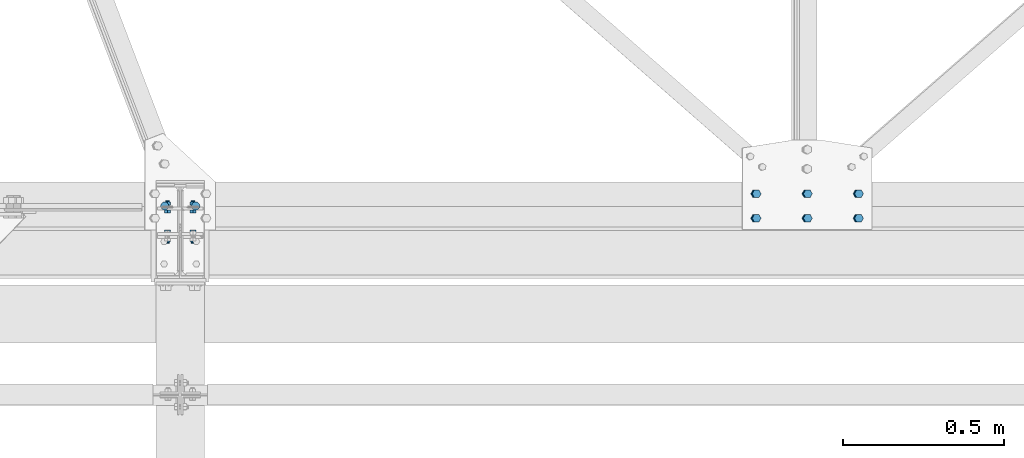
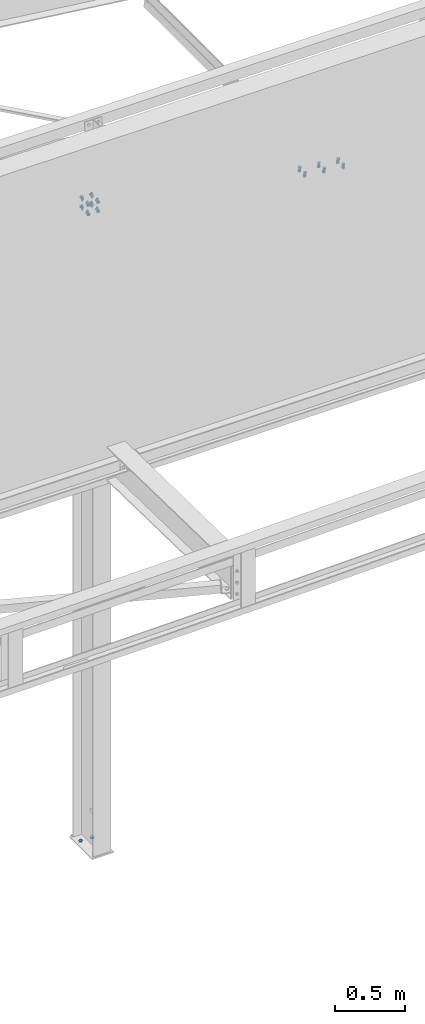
# One storey, part 25 of 3134: 4 mechanical fasteners, 3 elements without a shape of their own.
"""IFC2X3 building model written with IfcOpenShell, lengths in millimetres."""

from ifc_helpers import new_model, si_unit, frame, origin_with_axes, place, context, subcontext, project, spatial, faceted_brep, source, transform, mapped, material, type_object, element, aggregate, save


model = new_model("IFC2X3")

# Units and contexts
model_context = context("Model", 3, precision=1e-05, world=origin_with_axes())
body_context = subcontext(model_context, "Body", "Model", "MODEL_VIEW")
ifc_project = project(units=[si_unit("LENGTHUNIT", "METRE", prefix="MILLI"), si_unit("AREAUNIT", "SQUARE_METRE"), si_unit("VOLUMEUNIT", "CUBIC_METRE"), si_unit("MASSUNIT", "GRAM", prefix="KILO"), si_unit("TIMEUNIT", "SECOND"), si_unit("PLANEANGLEUNIT", "RADIAN"), si_unit("SOLIDANGLEUNIT", "STERADIAN"), si_unit("THERMODYNAMICTEMPERATUREUNIT", "DEGREE_CELSIUS"), si_unit("LUMINOUSINTENSITYUNIT", "LUMEN")], contexts=[model_context])

# Site, building, storey
site_placement = place(None, origin_with_axes())
site = spatial("IfcSite", under=ifc_project, at=site_placement, CompositionType="ELEMENT")
building_placement = place(site_placement, origin_with_axes())
building = spatial("IfcBuilding", under=site, at=building_placement, Name="Undefined", CompositionType="ELEMENT")
storey_placement = place(building_placement, origin_with_axes())
storey = spatial("IfcBuildingStorey", under=building, at=storey_placement, Name="Undefined", CompositionType="ELEMENT", Elevation=0.0)

# Assembly, mechanical fasteners
assembly_1_placement = place(storey_placement, origin_with_axes())
assembly_1 = element("IfcElementAssembly", 1, at=assembly_1_placement, inside=storey, Name="300", AssemblyPlace="NOTDEFINED", PredefinedType="RIGID_FRAME")
ifc_material = material(Name="8.8")
mechanical_fastener_type = type_object("IfcMechanicalFastenerType", Name="Bolt assembly")
shared_shape_1 = source(origin_with_axes(), body_context, "Body", "Brep", [
    faceted_brep([(13.856406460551, -19.199990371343, 0.0), (6.92820323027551, -19.199990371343, 12.0), (-6.92820323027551, -19.199990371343, 12.0), (-13.856406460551, -19.199990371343, 1.69692038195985e-15), (-6.92820323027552, -19.199990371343, -12.0), (6.9282032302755, -19.199990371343, -12.0), (6.9282032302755, -9.19999037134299, -12.0), (-6.92820323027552, -9.19999037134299, -12.0), (-13.856406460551, -9.19999037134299, 1.69692038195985e-15), (-6.92820323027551, -9.19999037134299, 12.0), (6.92820323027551, -9.19999037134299, 12.0), (13.856406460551, -9.19999037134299, 0.0), (8.0, -9.19999037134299, 0.0), (6.92820323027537, -9.19999037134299, 4.00000000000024), (3.99999999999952, -9.19999037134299, 6.92820323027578), (-8.29068785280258e-13, -9.19999037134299, 8.0), (-4.00000000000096, -9.19999037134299, 6.92820323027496), (-6.9282032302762, -9.19999037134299, 3.99999999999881), (-8.0, -9.19999037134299, -1.65813757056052e-12), (-6.92820323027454, -9.19999037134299, -4.00000000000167), (-3.99999999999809, -9.19999037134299, -6.92820323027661), (2.47832457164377e-12, -9.19999037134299, -8.0), (4.00000000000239, -9.19999037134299, -6.92820323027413), (6.92820323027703, -9.19999037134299, -3.99999999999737), (6.92820323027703, 25.800009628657, -3.99999999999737), (4.00000000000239, 25.800009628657, -6.92820323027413), (2.47832457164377e-12, 25.800009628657, -8.0), (-3.99999999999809, 25.800009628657, -6.92820323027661), (-6.92820323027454, 25.800009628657, -4.00000000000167), (-8.0, 25.800009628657, -1.65813757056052e-12), (-6.9282032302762, 25.800009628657, 3.99999999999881), (-4.00000000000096, 25.800009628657, 6.92820323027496), (-8.29068785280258e-13, 25.800009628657, 8.0), (3.99999999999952, 25.800009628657, 6.92820323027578), (6.92820323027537, 25.800009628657, 4.00000000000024), (8.0, 25.800009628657, 0.0), (13.856406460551, 8.00000637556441, 0.0), (6.92820323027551, 8.00000637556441, 12.0), (-6.92820323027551, 8.00000637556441, 12.0), (-13.856406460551, 8.00000637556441, 1.69692038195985e-15), (-6.92820323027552, 8.00000637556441, -12.0), (6.9282032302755, 8.00000637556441, -12.0), (6.9282032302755, 21.0000063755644, -12.0), (-6.92820323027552, 21.0000063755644, -12.0), (-13.856406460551, 21.0000063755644, 1.69692038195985e-15), (-6.92820323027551, 21.0000063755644, 12.0), (6.92820323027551, 21.0000063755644, 12.0), (13.856406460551, 21.0000063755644, 0.0)], [[[0, 1, 2, 3, 4, 5]], [[6, 7, 8, 9, 10, 11]], [[0, 11, 10, 1]], [[1, 10, 9, 2]], [[2, 9, 8, 3]], [[3, 8, 7, 4]], [[4, 7, 6, 5]], [[5, 6, 11, 0]], [[12, 13, 14, 15, 16, 17, 18, 19, 20, 21, 22, 23]], [[24, 25, 26, 27, 28, 29, 30, 31, 32, 33, 34, 35]], [[12, 35, 34, 13]], [[13, 34, 33, 14]], [[14, 33, 32, 15]], [[15, 32, 31, 16]], [[16, 31, 30, 17]], [[17, 30, 29, 18]], [[18, 29, 28, 19]], [[19, 28, 27, 20]], [[20, 27, 26, 21]], [[21, 26, 25, 22]], [[22, 25, 24, 23]], [[23, 24, 35, 12]], [[36, 37, 38, 39, 40, 41]], [[42, 43, 44, 45, 46, 47]], [[36, 47, 46, 37]], [[37, 46, 45, 38]], [[38, 45, 44, 39]], [[39, 44, 43, 40]], [[40, 43, 42, 41]], [[41, 42, 47, 36]]]),
    faceted_brep([(9.0, -0.1, 0.0), (7.79422863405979, -0.1, 4.50000000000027), (4.49999999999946, -0.1, 7.79422863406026), (-9.3270238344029e-13, -0.1, 9.0), (-4.50000000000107, -0.1, 7.79422863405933), (-7.79422863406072, -0.1, 4.49999999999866), (-9.0, -0.1, -1.86540476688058e-12), (-7.79422863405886, -0.1, -4.50000000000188), (-4.49999999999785, -0.1, -7.79422863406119), (2.78811514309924e-12, -0.1, -9.0), (4.50000000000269, -0.1, -7.7942286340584), (7.79422863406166, -0.1, -4.49999999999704), (7.79422863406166, 8.00000000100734, -4.49999999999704), (4.50000000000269, 8.00000000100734, -7.7942286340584), (2.78811514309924e-12, 8.00000000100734, -9.0), (-4.49999999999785, 8.00000000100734, -7.79422863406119), (-7.79422863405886, 8.00000000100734, -4.50000000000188), (-9.0, 8.00000000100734, -1.86540476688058e-12), (-7.79422863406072, 8.00000000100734, 4.49999999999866), (-4.50000000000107, 8.00000000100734, 7.79422863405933), (-9.3270238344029e-13, 8.00000000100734, 9.0), (4.49999999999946, 8.00000000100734, 7.79422863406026), (7.79422863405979, 8.00000000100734, 4.50000000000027), (9.0, 8.00000000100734, 0.0), (9.0, -9.09999037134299, 0.0), (7.79422863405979, -9.09999037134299, 4.50000000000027), (4.49999999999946, -9.09999037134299, 7.79422863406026), (-9.3270238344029e-13, -9.09999037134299, 9.0), (-4.50000000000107, -9.09999037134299, 7.79422863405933), (-7.79422863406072, -9.09999037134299, 4.49999999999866), (-9.0, -9.09999037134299, -1.86540476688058e-12), (-7.79422863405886, -9.09999037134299, -4.50000000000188), (-4.49999999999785, -9.09999037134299, -7.79422863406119), (2.78811514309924e-12, -9.09999037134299, -9.0), (4.50000000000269, -9.09999037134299, -7.7942286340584), (7.79422863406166, -9.09999037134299, -4.49999999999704), (7.79422863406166, 0.100000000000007, -4.49999999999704), (4.50000000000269, 0.100000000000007, -7.7942286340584), (2.78811514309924e-12, 0.100000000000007, -9.0), (-4.49999999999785, 0.100000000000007, -7.79422863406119), (-7.79422863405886, 0.100000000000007, -4.50000000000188), (-9.0, 0.100000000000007, -1.86540476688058e-12), (-7.79422863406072, 0.100000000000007, 4.49999999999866), (-4.50000000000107, 0.100000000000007, 7.79422863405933), (-9.3270238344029e-13, 0.100000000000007, 9.0), (4.49999999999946, 0.100000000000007, 7.79422863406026), (7.79422863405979, 0.100000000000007, 4.50000000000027), (9.0, 0.100000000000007, 0.0)], [[[0, 1, 2, 3, 4, 5, 6, 7, 8, 9, 10, 11]], [[12, 13, 14, 15, 16, 17, 18, 19, 20, 21, 22, 23]], [[0, 23, 22, 1]], [[1, 22, 21, 2]], [[2, 21, 20, 3]], [[3, 20, 19, 4]], [[4, 19, 18, 5]], [[5, 18, 17, 6]], [[6, 17, 16, 7]], [[7, 16, 15, 8]], [[8, 15, 14, 9]], [[9, 14, 13, 10]], [[10, 13, 12, 11]], [[11, 12, 23, 0]], [[24, 25, 26, 27, 28, 29, 30, 31, 32, 33, 34, 35]], [[36, 37, 38, 39, 40, 41, 42, 43, 44, 45, 46, 47]], [[24, 47, 46, 25]], [[25, 46, 45, 26]], [[26, 45, 44, 27]], [[27, 44, 43, 28]], [[28, 43, 42, 29]], [[29, 42, 41, 30]], [[30, 41, 40, 31]], [[31, 40, 39, 32]], [[32, 39, 38, 33]], [[33, 38, 37, 34]], [[34, 37, 36, 35]], [[35, 36, 47, 24]]]),
])
mechanical_fastener_1_placement = place(assembly_1_placement, frame((26846.8025059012, 0.0, 4787.33541359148), z_axis=(0.0, -1.0, 0.0), x_axis=(-0.992623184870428, 0.0, 0.121240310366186)))
mechanical_fastener_1 = element("IfcMechanicalFastener", 2, at=mechanical_fastener_1_placement, type_object=mechanical_fastener_type, material=ifc_material, Name="Bolt assembly", NominalDiameter=16.0, NominalLength=35.0, context=body_context, shape_type="MappedRepresentation", body=[
    mapped(shared_shape_1, transform((0.0, 0.0, -38.0))),
    mapped(shared_shape_1, transform((159.99999999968, -2.71938915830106e-10, -38.0))),
    mapped(shared_shape_1, transform((320.000000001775, 1.33877620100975e-09, -38.0))),
    mapped(shared_shape_1, transform((0.0, 0.0, 38.0))),
    mapped(shared_shape_1, transform((159.99999999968, -2.71938915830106e-10, 38.0))),
    mapped(shared_shape_1, transform((320.000000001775, 1.33877620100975e-09, 38.0))),
])
shared_shape_2 = source(origin_with_axes(), body_context, "Body", "Brep", [
    faceted_brep([(10.9696551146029, -21.0500000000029, 0.0), (5.48482755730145, -21.0500000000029, 9.5), (-5.48482755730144, -21.0500000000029, 9.5), (-10.9696551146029, -21.0500000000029, 1.34339530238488e-15), (-5.48482755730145, -21.0500000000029, -9.5), (5.48482755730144, -21.0500000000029, -9.50000000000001), (5.48482755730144, -13.0500000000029, -9.50000000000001), (-5.48482755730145, -13.0500000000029, -9.5), (-10.9696551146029, -13.0500000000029, 1.34339530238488e-15), (-5.48482755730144, -13.0500000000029, 9.5), (5.48482755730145, -13.0500000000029, 9.5), (10.9696551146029, -13.0500000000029, 0.0), (6.0, -13.0500000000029, 0.0), (5.19615242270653, -13.0500000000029, 3.00000000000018), (2.99999999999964, -13.0500000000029, 5.19615242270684), (-6.21801588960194e-13, -13.0500000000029, 6.0), (-3.00000000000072, -13.0500000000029, 5.19615242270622), (-5.19615242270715, -13.0500000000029, 2.9999999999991), (-6.0, -13.0500000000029, -1.24360317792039e-12), (-5.19615242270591, -13.0500000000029, -3.00000000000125), (-2.99999999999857, -13.0500000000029, -5.19615242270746), (1.85874342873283e-12, -13.0500000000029, -6.0), (3.00000000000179, -13.0500000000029, -5.1961524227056), (5.19615242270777, -13.0500000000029, -2.99999999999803), (5.19615242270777, 16.9499999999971, -2.99999999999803), (3.00000000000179, 16.9499999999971, -5.1961524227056), (1.85874342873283e-12, 16.9499999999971, -6.0), (-2.99999999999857, 16.9499999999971, -5.19615242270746), (-5.19615242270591, 16.9499999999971, -3.00000000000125), (-6.0, 16.9499999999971, -1.24360317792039e-12), (-5.19615242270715, 16.9499999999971, 2.9999999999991), (-3.00000000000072, 16.9499999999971, 5.19615242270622), (-6.21801588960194e-13, 16.9499999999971, 6.0), (2.99999999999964, 16.9499999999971, 5.19615242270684), (5.19615242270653, 16.9499999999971, 3.00000000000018), (6.0, 16.9499999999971, 0.0), (10.9696551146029, 3.04999995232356, 0.0), (5.48482755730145, 3.04999995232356, 9.5), (-5.48482755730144, 3.04999995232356, 9.5), (-10.9696551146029, 3.04999995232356, 1.34339530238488e-15), (-5.48482755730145, 3.04999995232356, -9.5), (5.48482755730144, 3.04999995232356, -9.50000000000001), (5.48482755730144, 13.0499999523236, -9.50000000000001), (-5.48482755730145, 13.0499999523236, -9.5), (-10.9696551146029, 13.0499999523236, 1.34339530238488e-15), (-5.48482755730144, 13.0499999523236, 9.5), (5.48482755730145, 13.0499999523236, 9.5), (10.9696551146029, 13.0499999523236, 0.0)], [[[0, 1, 2, 3, 4, 5]], [[6, 7, 8, 9, 10, 11]], [[0, 11, 10, 1]], [[1, 10, 9, 2]], [[2, 9, 8, 3]], [[3, 8, 7, 4]], [[4, 7, 6, 5]], [[5, 6, 11, 0]], [[12, 13, 14, 15, 16, 17, 18, 19, 20, 21, 22, 23]], [[24, 25, 26, 27, 28, 29, 30, 31, 32, 33, 34, 35]], [[12, 35, 34, 13]], [[13, 34, 33, 14]], [[14, 33, 32, 15]], [[15, 32, 31, 16]], [[16, 31, 30, 17]], [[17, 30, 29, 18]], [[18, 29, 28, 19]], [[19, 28, 27, 20]], [[20, 27, 26, 21]], [[21, 26, 25, 22]], [[22, 25, 24, 23]], [[23, 24, 35, 12]], [[36, 37, 38, 39, 40, 41]], [[42, 43, 44, 45, 46, 47]], [[36, 47, 46, 37]], [[37, 46, 45, 38]], [[38, 45, 44, 39]], [[39, 44, 43, 40]], [[40, 43, 42, 41]], [[41, 42, 47, 36]]]),
    faceted_brep([(26.0, -12.9500000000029, 0.0), (25.4671567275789, -12.9500000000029, 2.6787840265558), (23.9497474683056, -12.9500000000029, 4.94974746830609), (21.6787840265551, -12.9500000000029, 6.46715672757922), (-19.0000000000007, -12.9500000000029, 7.0), (-22.5000000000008, -12.9500000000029, 6.06217782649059), (-25.0621778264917, -12.9500000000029, 3.49999999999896), (-26.0, -12.9500000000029, -1.45087037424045e-12), (-25.0621778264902, -12.9500000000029, -3.50000000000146), (-22.4999999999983, -12.9500000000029, -6.06217782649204), (-18.9999999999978, -12.9500000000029, -7.0), (19.0000000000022, -12.9500000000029, -7.0), (22.5000000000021, -12.9500000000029, -6.06217782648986), (25.0621778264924, -12.9500000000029, -3.4999999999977), (26.0, -2.95000000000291, 0.0), (25.0621778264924, -2.95000000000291, -3.4999999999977), (22.5000000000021, -2.95000000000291, -6.06217782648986), (19.0000000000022, -2.95000000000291, -7.0), (-18.9999999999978, -2.95000000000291, -7.0), (-22.4999999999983, -2.95000000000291, -6.06217782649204), (-25.0621778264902, -2.95000000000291, -3.50000000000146), (-26.0, -2.95000000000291, -1.45087037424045e-12), (-25.0621778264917, -2.95000000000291, 3.49999999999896), (-22.5000000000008, -2.95000000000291, 6.06217782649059), (-19.0000000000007, -2.95000000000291, 7.0), (21.6787840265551, -2.95000000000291, 6.46715672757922), (23.9497474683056, -2.95000000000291, 4.94974746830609), (25.4671567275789, -2.95000000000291, 2.6787840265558), (7.0, -3.14999995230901, 0.0), (6.06217782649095, -3.14999995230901, 3.50000000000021), (3.49999999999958, -3.14999995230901, 6.06217782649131), (-7.25435187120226e-13, -3.14999995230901, 7.0), (-3.50000000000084, -3.14999995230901, 6.06217782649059), (-6.06217782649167, -3.14999995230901, 3.49999999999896), (-7.0, -3.14999995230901, -1.45087037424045e-12), (-6.06217782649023, -3.14999995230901, -3.50000000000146), (-3.49999999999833, -3.14999995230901, -6.06217782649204), (2.1685340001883e-12, -3.14999995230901, -7.0), (3.50000000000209, -3.14999995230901, -6.06217782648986), (6.0621778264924, -3.14999995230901, -3.4999999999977), (6.0621778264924, 3.04999995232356, -3.4999999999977), (3.50000000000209, 3.04999995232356, -6.06217782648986), (2.1685340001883e-12, 3.04999995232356, -7.0), (-3.49999999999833, 3.04999995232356, -6.06217782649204), (-6.06217782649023, 3.04999995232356, -3.50000000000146), (-7.0, 3.04999995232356, -1.45087037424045e-12), (-6.06217782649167, 3.04999995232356, 3.49999999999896), (-3.50000000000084, 3.04999995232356, 6.06217782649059), (-7.25435187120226e-13, 3.04999995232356, 7.0), (3.49999999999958, 3.04999995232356, 6.06217782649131), (6.06217782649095, 3.04999995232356, 3.50000000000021), (7.0, 3.04999995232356, 0.0)], [[[0, 1, 2, 3, 4, 5, 6, 7, 8, 9, 10, 11, 12, 13]], [[14, 15, 16, 17, 18, 19, 20, 21, 22, 23, 24, 25, 26, 27]], [[0, 14, 27, 1]], [[1, 27, 26, 2]], [[2, 26, 25, 3]], [[3, 25, 24, 4]], [[4, 24, 23, 5]], [[5, 23, 22, 6]], [[6, 22, 21, 7]], [[7, 21, 20, 8]], [[8, 20, 19, 9]], [[9, 19, 18, 10]], [[10, 18, 17, 11]], [[11, 17, 16, 12]], [[12, 16, 15, 13]], [[13, 15, 14, 0]], [[28, 29, 30, 31, 32, 33, 34, 35, 36, 37, 38, 39]], [[40, 41, 42, 43, 44, 45, 46, 47, 48, 49, 50, 51]], [[28, 51, 50, 29]], [[29, 50, 49, 30]], [[30, 49, 48, 31]], [[31, 48, 47, 32]], [[32, 47, 46, 33]], [[33, 46, 45, 34]], [[34, 45, 44, 35]], [[35, 44, 43, 36]], [[36, 43, 42, 37]], [[37, 42, 41, 38]], [[38, 41, 40, 39]], [[39, 40, 51, 28]]]),
])
mechanical_fastener_2_placement = place(assembly_1_placement, frame((24741.9999999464, 0.0, 5234.02642111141), z_axis=(1.0, 0.0, 0.0), x_axis=(0.0, 0.0, -1.0)))
mechanical_fastener_2 = element("IfcMechanicalFastener", 3, at=mechanical_fastener_2_placement, type_object=mechanical_fastener_type, material=ifc_material, Name="Bolt assembly", NominalDiameter=12.0, NominalLength=30.0, context=body_context, shape_type="MappedRepresentation", body=[
    mapped(shared_shape_2, transform((0.0, 0.0, -40.0))),
    mapped(shared_shape_2, transform((80.0, 0.0, -40.0))),
    mapped(shared_shape_2, transform((0.0, 0.0, 40.0))),
    mapped(shared_shape_2, transform((80.0, 0.0, 40.0))),
])
aggregate(assembly_1, [mechanical_fastener_1, mechanical_fastener_2])

# Assembly, mechanical fastener
assembly_2_placement = place(storey_placement, origin_with_axes())
assembly_2 = element("IfcElementAssembly", 4, at=assembly_2_placement, inside=storey, AssemblyPlace="NOTDEFINED", PredefinedType="RIGID_FRAME")
shared_shape_3 = source(origin_with_axes(), body_context, "Body", "Brep", [
    faceted_brep([(10.9696551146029, -18.0, 0.0), (5.48482755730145, -18.0, 9.5), (-5.48482755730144, -18.0, 9.5), (-10.9696551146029, -18.0, 1.34339530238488e-15), (-5.48482755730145, -18.0, -9.5), (5.48482755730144, -18.0, -9.50000000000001), (5.48482755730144, -10.0, -9.50000000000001), (-5.48482755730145, -10.0, -9.5), (-10.9696551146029, -10.0, 1.34339530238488e-15), (-5.48482755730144, -10.0, 9.5), (5.48482755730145, -10.0, 9.5), (10.9696551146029, -10.0, 0.0), (6.0, -10.0, 0.0), (5.19615242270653, -10.0, 3.00000000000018), (2.99999999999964, -10.0, 5.19615242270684), (-6.21801588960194e-13, -10.0, 6.0), (-3.00000000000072, -10.0, 5.19615242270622), (-5.19615242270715, -10.0, 2.9999999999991), (-6.0, -10.0, -1.24360317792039e-12), (-5.19615242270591, -10.0, -3.00000000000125), (-2.99999999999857, -10.0, -5.19615242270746), (1.85874342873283e-12, -10.0, -6.0), (3.00000000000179, -10.0, -5.1961524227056), (5.19615242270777, -10.0, -2.99999999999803), (5.19615242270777, 24.9999999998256, -2.99999999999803), (3.00000000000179, 24.9999999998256, -5.1961524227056), (1.85874342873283e-12, 24.9999999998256, -6.0), (-2.99999999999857, 24.9999999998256, -5.19615242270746), (-5.19615242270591, 24.9999999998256, -3.00000000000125), (-6.0, 24.9999999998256, -1.24360317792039e-12), (-5.19615242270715, 24.9999999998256, 2.9999999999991), (-3.00000000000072, 24.9999999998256, 5.19615242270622), (-6.21801588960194e-13, 24.9999999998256, 6.0), (2.99999999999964, 24.9999999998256, 5.19615242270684), (5.19615242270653, 24.9999999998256, 3.00000000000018), (6.0, 24.9999999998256, 0.0), (10.9696551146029, 8.5, 0.0), (5.48482755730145, 8.5, 9.5), (-5.48482755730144, 8.5, 9.5), (-10.9696551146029, 8.5, 1.34339530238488e-15), (-5.48482755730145, 8.5, -9.5), (5.48482755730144, 8.5, -9.50000000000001), (5.48482755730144, 18.5, -9.50000000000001), (-5.48482755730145, 18.5, -9.5), (-10.9696551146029, 18.5, 1.34339530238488e-15), (-5.48482755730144, 18.5, 9.5), (5.48482755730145, 18.5, 9.5), (10.9696551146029, 18.5, 0.0)], [[[0, 1, 2, 3, 4, 5]], [[6, 7, 8, 9, 10, 11]], [[0, 11, 10, 1]], [[1, 10, 9, 2]], [[2, 9, 8, 3]], [[3, 8, 7, 4]], [[4, 7, 6, 5]], [[5, 6, 11, 0]], [[12, 13, 14, 15, 16, 17, 18, 19, 20, 21, 22, 23]], [[24, 25, 26, 27, 28, 29, 30, 31, 32, 33, 34, 35]], [[12, 35, 34, 13]], [[13, 34, 33, 14]], [[14, 33, 32, 15]], [[15, 32, 31, 16]], [[16, 31, 30, 17]], [[17, 30, 29, 18]], [[18, 29, 28, 19]], [[19, 28, 27, 20]], [[20, 27, 26, 21]], [[21, 26, 25, 22]], [[22, 25, 24, 23]], [[23, 24, 35, 12]], [[36, 37, 38, 39, 40, 41]], [[42, 43, 44, 45, 46, 47]], [[36, 47, 46, 37]], [[37, 46, 45, 38]], [[38, 45, 44, 39]], [[39, 44, 43, 40]], [[40, 43, 42, 41]], [[41, 42, 47, 36]]]),
    faceted_brep([(7.0, -0.1, 0.0), (6.06217782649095, -0.1, 3.50000000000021), (3.49999999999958, -0.1, 6.06217782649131), (-7.25435187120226e-13, -0.1, 7.0), (-3.50000000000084, -0.1, 6.06217782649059), (-6.06217782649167, -0.1, 3.49999999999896), (-7.0, -0.1, -1.45087037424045e-12), (-6.06217782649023, -0.1, -3.50000000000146), (-3.49999999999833, -0.1, -6.06217782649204), (2.1685340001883e-12, -0.1, -7.0), (3.50000000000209, -0.1, -6.06217782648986), (6.0621778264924, -0.1, -3.4999999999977), (6.0621778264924, 8.5, -3.4999999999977), (3.50000000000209, 8.5, -6.06217782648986), (2.1685340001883e-12, 8.5, -7.0), (-3.49999999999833, 8.5, -6.06217782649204), (-6.06217782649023, 8.5, -3.50000000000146), (-7.0, 8.5, -1.45087037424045e-12), (-6.06217782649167, 8.5, 3.49999999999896), (-3.50000000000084, 8.5, 6.06217782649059), (-7.25435187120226e-13, 8.5, 7.0), (3.49999999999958, 8.5, 6.06217782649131), (6.06217782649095, 8.5, 3.50000000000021), (7.0, 8.5, 0.0), (26.0, -9.9, 0.0), (25.4671567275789, -9.9, 2.6787840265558), (23.9497474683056, -9.9, 4.94974746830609), (21.6787840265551, -9.9, 6.46715672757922), (-19.0000000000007, -9.9, 7.0), (-22.5000000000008, -9.9, 6.06217782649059), (-25.0621778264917, -9.9, 3.49999999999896), (-26.0, -9.9, -1.45087037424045e-12), (-25.0621778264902, -9.9, -3.50000000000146), (-22.4999999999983, -9.9, -6.06217782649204), (-18.9999999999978, -9.9, -7.0), (19.0000000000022, -9.9, -7.0), (22.5000000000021, -9.9, -6.06217782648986), (25.0621778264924, -9.9, -3.4999999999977), (26.0, 0.0999999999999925, 0.0), (25.0621778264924, 0.0999999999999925, -3.4999999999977), (22.5000000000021, 0.0999999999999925, -6.06217782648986), (19.0000000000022, 0.0999999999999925, -7.0), (-18.9999999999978, 0.0999999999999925, -7.0), (-22.4999999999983, 0.0999999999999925, -6.06217782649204), (-25.0621778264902, 0.0999999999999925, -3.50000000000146), (-26.0, 0.0999999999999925, -1.45087037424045e-12), (-25.0621778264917, 0.0999999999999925, 3.49999999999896), (-22.5000000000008, 0.0999999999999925, 6.06217782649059), (-19.0000000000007, 0.0999999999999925, 7.0), (21.6787840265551, 0.0999999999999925, 6.46715672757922), (23.9497474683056, 0.0999999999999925, 4.94974746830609), (25.4671567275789, 0.0999999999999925, 2.6787840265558)], [[[0, 1, 2, 3, 4, 5, 6, 7, 8, 9, 10, 11]], [[12, 13, 14, 15, 16, 17, 18, 19, 20, 21, 22, 23]], [[0, 23, 22, 1]], [[1, 22, 21, 2]], [[2, 21, 20, 3]], [[3, 20, 19, 4]], [[4, 19, 18, 5]], [[5, 18, 17, 6]], [[6, 17, 16, 7]], [[7, 16, 15, 8]], [[8, 15, 14, 9]], [[9, 14, 13, 10]], [[10, 13, 12, 11]], [[11, 12, 23, 0]], [[24, 25, 26, 27, 28, 29, 30, 31, 32, 33, 34, 35, 36, 37]], [[38, 39, 40, 41, 42, 43, 44, 45, 46, 47, 48, 49, 50, 51]], [[24, 38, 51, 25]], [[25, 51, 50, 26]], [[26, 50, 49, 27]], [[27, 49, 48, 28]], [[28, 48, 47, 29]], [[29, 47, 46, 30]], [[30, 46, 45, 31]], [[31, 45, 44, 32]], [[32, 44, 43, 33]], [[33, 43, 42, 34]], [[34, 42, 41, 35]], [[35, 41, 40, 36]], [[36, 40, 39, 37]], [[37, 39, 38, 24]]]),
])
mechanical_fastener_3_placement = place(assembly_2_placement, frame((24741.9999999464, -92.0, 5234.02642111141), z_axis=(-1.0, 0.0, 0.0), x_axis=(0.0, 0.0, -1.0)))
mechanical_fastener_3 = element("IfcMechanicalFastener", 5, at=mechanical_fastener_3_placement, type_object=mechanical_fastener_type, material=ifc_material, Name="Bolt assembly", NominalDiameter=12.0, NominalLength=35.0, context=body_context, shape_type="MappedRepresentation", body=[
    mapped(shared_shape_3, transform((0.0, 0.0, -40.0))),
    mapped(shared_shape_3, transform((80.0, 0.0, -40.0))),
    mapped(shared_shape_3, transform((0.0, 0.0, 40.0))),
    mapped(shared_shape_3, transform((80.0, 0.0, 40.0))),
])
aggregate(assembly_2, [mechanical_fastener_3])

assembly_3_placement = place(storey_placement, origin_with_axes())
assembly_3 = element("IfcElementAssembly", 6, at=assembly_3_placement, inside=storey, Name="300", AssemblyPlace="NOTDEFINED", PredefinedType="RIGID_FRAME")
shared_shape_4 = source(origin_with_axes(), body_context, "Body", "Brep", [
    faceted_brep([(13.0, -25.000000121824, 0.0), (11.2583302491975, -25.000000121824, 6.50000000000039), (6.49999999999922, -25.000000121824, 11.2583302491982), (-1.34723677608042e-12, -25.000000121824, 13.0), (-6.50000000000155, -25.000000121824, 11.2583302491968), (-11.2583302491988, -25.000000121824, 6.49999999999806), (-13.0, -25.000000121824, -2.69447355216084e-12), (-11.2583302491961, -25.000000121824, -6.50000000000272), (-6.4999999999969, -25.000000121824, -11.2583302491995), (4.02727742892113e-12, -25.000000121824, -13.0), (6.50000000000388, -25.000000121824, -11.2583302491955), (11.2583302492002, -25.000000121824, -6.49999999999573), (11.2583302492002, -12.900000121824, -6.49999999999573), (6.50000000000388, -12.900000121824, -11.2583302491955), (4.02727742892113e-12, -12.900000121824, -13.0), (-6.4999999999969, -12.900000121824, -11.2583302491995), (-11.2583302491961, -12.900000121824, -6.50000000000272), (-13.0, -12.900000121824, -2.69447355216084e-12), (-11.2583302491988, -12.900000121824, 6.49999999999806), (-6.50000000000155, -12.900000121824, 11.2583302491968), (-1.34723677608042e-12, -12.900000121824, 13.0), (6.49999999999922, -12.900000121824, 11.2583302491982), (11.2583302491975, -12.900000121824, 6.50000000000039), (13.0, -12.900000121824, 0.0)], [[[0, 1, 2, 3, 4, 5, 6, 7, 8, 9, 10, 11]], [[12, 13, 14, 15, 16, 17, 18, 19, 20, 21, 22, 23]], [[0, 23, 22, 1]], [[1, 22, 21, 2]], [[2, 21, 20, 3]], [[3, 20, 19, 4]], [[4, 19, 18, 5]], [[5, 18, 17, 6]], [[6, 17, 16, 7]], [[7, 16, 15, 8]], [[8, 15, 14, 9]], [[9, 14, 13, 10]], [[10, 13, 12, 11]], [[11, 12, 23, 0]]]),
])
mechanical_fastener_4_placement = place(assembly_3_placement, frame((24742.0000000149, -301.499999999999, -374.999999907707), z_axis=(1.0, 0.0, 0.0), x_axis=(0.0, 1.0, 0.0)))
mechanical_fastener_4 = element("IfcMechanicalFastener", 7, at=mechanical_fastener_4_placement, type_object=mechanical_fastener_type, material=ifc_material, Name="Bolt assembly", NominalDiameter=24.0, NominalLength=12.0, context=body_context, shape_type="MappedRepresentation", body=[
    mapped(shared_shape_4, transform((301.5, 0.0, -48.0))),
    mapped(shared_shape_4, transform((301.5, 0.0, 48.0))),
])
aggregate(assembly_3, [mechanical_fastener_4])

save(model, "model.ifc")
